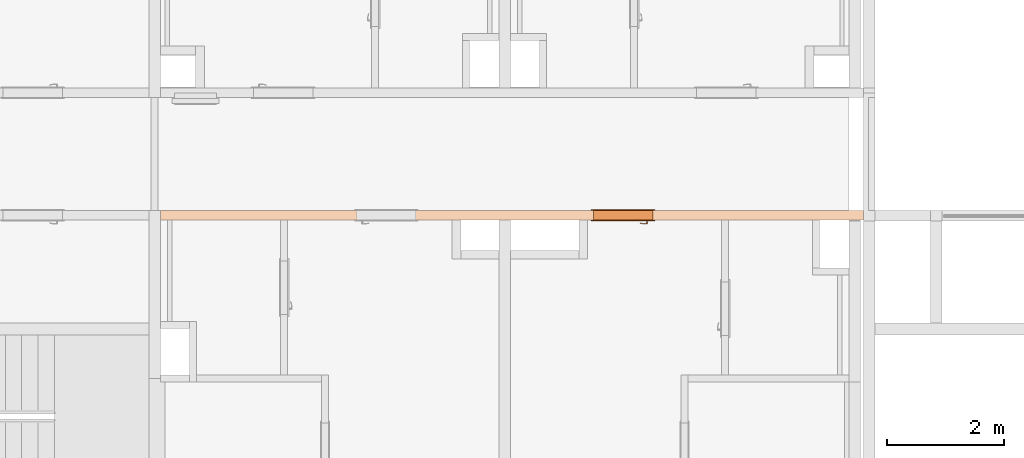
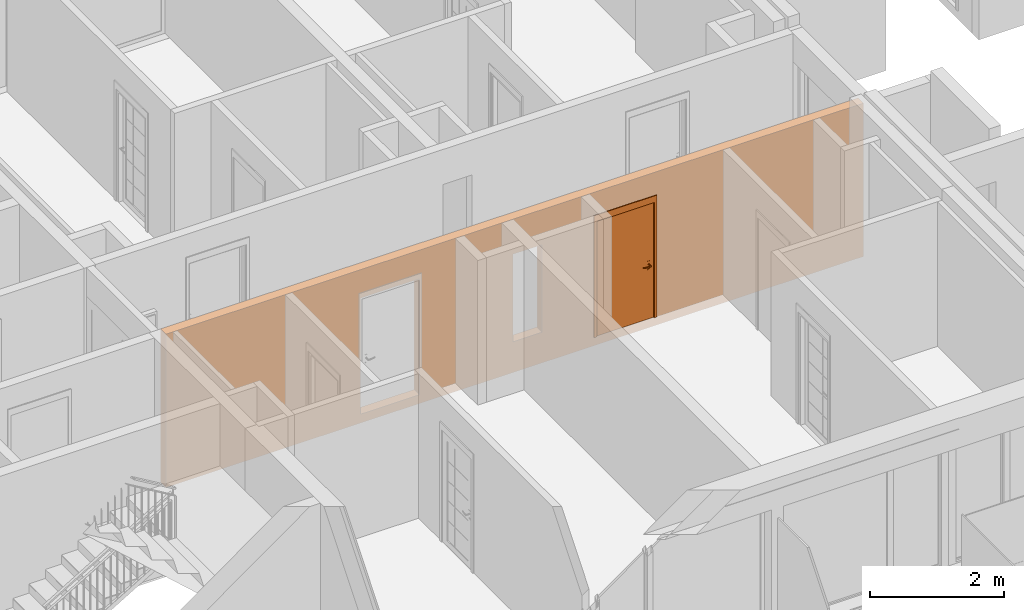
# One storey, part 23 of 66: 1 proxy, 3 openings, plus 1 element that does not belong to this part.
"""IFC2X3 building model written with IfcOpenShell, lengths in millimetres."""

from ifc_helpers import new_model, entity, si_unit, converted_unit, derived_unit, money_unit, direction, frame, origin_with_axes, origin_2d_with_axis, place, context, subcontext, project, spatial, rectangle, extrude, open_shell, faceted_brep, surface_model, source, transform, mapped, material, type_object, element, fill, save


model = new_model("IFC2X3")

# Units and contexts
model_context = context("Model", 3, precision=0.01, world=origin_with_axes(), true_north=direction((0.34421633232, 0.938890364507)))
body_context = subcontext(model_context, "Body", "Model", "MODEL_VIEW")
ifc_project = project(units=[si_unit("LENGTHUNIT", "METRE", prefix="MILLI"), si_unit("AREAUNIT", "SQUARE_METRE"), si_unit("VOLUMEUNIT", "CUBIC_METRE"), converted_unit("PLANEANGLEUNIT", "DEGREE", entity("IfcPlaneAngleMeasure", 0.0174532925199), si_unit("PLANEANGLEUNIT", "RADIAN"), dimensions=[0, 0, 0, 0, 0, 0, 0]), si_unit("SOLIDANGLEUNIT", "STERADIAN"), money_unit("USD"), converted_unit("TIMEUNIT", "Year", entity("IfcTimeMeasure", 31556926.0), si_unit("TIMEUNIT", "SECOND"), dimensions=[0, 0, 1, 0, 0, 0, 0]), si_unit("MASSUNIT", "GRAM", prefix="KILO"), si_unit("THERMODYNAMICTEMPERATUREUNIT", "DEGREE_CELSIUS"), si_unit("LUMINOUSINTENSITYUNIT", "LUMEN"), si_unit("ENERGYUNIT", "JOULE", prefix="MEGA"), derived_unit("THERMALCONDUCTANCEUNIT", [(si_unit("POWERUNIT", "WATT"), 1), (si_unit("LENGTHUNIT", "METRE"), -1), (si_unit("THERMODYNAMICTEMPERATUREUNIT", "KELVIN"), -1)]), derived_unit("SPECIFICHEATCAPACITYUNIT", [(si_unit("ENERGYUNIT", "JOULE"), 1), (si_unit("MASSUNIT", "GRAM", prefix="KILO"), -1), (si_unit("THERMODYNAMICTEMPERATUREUNIT", "KELVIN"), -1)]), derived_unit("MASSDENSITYUNIT", [(si_unit("MASSUNIT", "GRAM", prefix="KILO"), 1), (si_unit("VOLUMEUNIT", "CUBIC_METRE"), -1)])], contexts=[model_context])

# Site, building, storey
site_placement = place(None, origin_with_axes())
site = spatial("IfcSite", under=ifc_project, at=site_placement, Name="USTRONIE MORSKIE", CompositionType="ELEMENT")
building_placement = place(site_placement, origin_with_axes())
building = spatial("IfcBuilding", under=site, at=building_placement, Name="Budynek", CompositionType="ELEMENT")
storey_placement = place(building_placement, frame((0.0, 0.0, 10000.0), z_axis=(0.0, 0.0, 1.0), x_axis=(1.0, 0.0, 0.0)))
storey = spatial("IfcBuildingStorey", under=building, at=storey_placement, Name="PIĘTRO 3", CompositionType="ELEMENT", Elevation=10000.0)

# Proxies, openings
ifc_material = material(Name="Beton konstrukcyjny B25")
building_element_proxy_type_1 = type_object("IfcBuildingElementProxyType", Name="Beton konstrukcyjny B25 160", PredefinedType="NOTDEFINED")
proxy_1_placement = place(storey_placement, frame((408567.920919, 734751.199024, -160.0), z_axis=(0.0, 0.0, 1.0), x_axis=(-1.0, 3.09952861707e-07, 0.0)))
proxy_1 = element("IfcBuildingElementProxy", 1, at=proxy_1_placement, inside=storey, type_object=building_element_proxy_type_1, material=ifc_material, Name="SW-01", context=body_context, shape_type="Brep", body=[
    faceted_brep([(12149.9999752, 80.0, 0.0), (12150.0000248, -80.0, 0.0), (100.000024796, -80.0000000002, 0.0), (99.9999752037, 80.0, 0.0), (12149.9999752, 80.0, 2800.0), (12150.0000248, -80.0, 2800.0), (100.000024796, -80.0000000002, 2800.0), (99.9999752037, 80.0, 2800.0)], [[[0, 1, 2, 3]], [[1, 0, 4, 5]], [[1, 5, 6, 2]], [[7, 3, 2, 6]], [[4, 0, 3, 7]], [[5, 4, 7, 6]]]),
])
opening_1_placement = place(proxy_1_placement, frame((8279.98054114, 0.0, 160.0), z_axis=(0.0, 0.0, 1.0), x_axis=(1.0, 0.0, 0.0)))
element("IfcOpeningElement", 2, at=opening_1_placement, cuts=proxy_1, Name="Dw.1", context=body_context, shape_type="SweptSolid", body=[
    extrude(rectangle(XDim=1020.0, YDim=2120.0, at=origin_2d_with_axis()), frame((0.0, -160.0, 1060.0), z_axis=(0.0, -1.0, 0.0), x_axis=(-1.0, 0.0, 0.0)), (0.0, 0.0, -1.0), 480.0),
    extrude(rectangle(XDim=1094.0, YDim=2227.0, at=origin_2d_with_axis()), frame((0.0, -80.0000000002, 1113.5), z_axis=(0.0, -1.0, 0.0), x_axis=(-1.0, 0.0, 0.0)), (0.0, 0.0, 1.0), 160.0),
    extrude(rectangle(XDim=1094.0, YDim=2227.0, at=origin_2d_with_axis()), frame((0.0, 79.9999999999, 1113.5), z_axis=(0.0, 1.0, 0.0), x_axis=(-1.0, 0.0, 0.0)), (0.0, 0.0, 1.0), 160.0),
])
opening_2_placement = place(proxy_1_placement, frame((4220.01924189, -1.13686837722e-10, 160.0), z_axis=(0.0, 0.0, 1.0), x_axis=(1.0, 0.0, 0.0)))
opening_2 = element("IfcOpeningElement", 3, at=opening_2_placement, cuts=proxy_1, Name="Dw.1", context=body_context, shape_type="SweptSolid", body=[
    extrude(rectangle(XDim=1020.0, YDim=2120.0, at=origin_2d_with_axis()), frame((0.0, -160.0, 1060.0), z_axis=(0.0, 1.0, 0.0), x_axis=(1.0, 0.0, 0.0)), (0.0, 0.0, 1.0), 480.0),
    extrude(rectangle(XDim=1094.0, YDim=2227.0, at=origin_2d_with_axis()), frame((0.0, -80.0, 1113.5), z_axis=(0.0, 1.0, 0.0), x_axis=(1.0, 0.0, 0.0)), (0.0, 0.0, -1.0), 160.0),
    extrude(rectangle(XDim=1094.0, YDim=2227.0, at=origin_2d_with_axis()), frame((0.0, 79.9999999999, 1113.5), z_axis=(0.0, -1.0, 0.0), x_axis=(1.0, 0.0, 0.0)), (0.0, 0.0, -1.0), 160.0),
])
opening_3_placement = place(proxy_1_placement, frame((5900.000031, 0.0, 560.0), z_axis=(0.0, 0.0, 1.0), x_axis=(1.0, 0.0, 0.0)))
element("IfcOpeningElement", 4, at=opening_3_placement, cuts=proxy_1, Name="R.01", context=body_context, shape_type="SweptSolid", body=[
    extrude(rectangle(XDim=500.0, YDim=1600.0, at=origin_2d_with_axis()), frame((0.0, -80.0, 800.0), z_axis=(0.0, 1.0, 0.0), x_axis=(1.0, 0.0, 0.0)), (0.0, 0.0, -1.0), 160.0),
    extrude(rectangle(XDim=500.0, YDim=1600.0, at=origin_2d_with_axis()), frame((0.0, -80.0, 800.0), z_axis=(0.0, -1.0, 0.0), x_axis=(1.0, 0.0, 0.0)), (0.0, 0.0, -1.0), 160.0),
])
building_element_proxy_type_2 = type_object("IfcBuildingElementProxyType", Name="Drzwi 23", PredefinedType="NOTDEFINED")
shared_shape = source(origin_with_axes(), body_context, "Body", "SurfaceModel", [
    faceted_brep([(-510.0, -115.0, 0.0), (-485.0, -115.0, 0.0), (-485.0, -160.0, 0.0), (-510.0, -160.0, 0.0), (-510.0, -115.0, 2120.0), (-485.0, -115.0, 2095.0), (-485.0, -160.0, 2095.0), (-510.0, -160.0, 2120.0)], [[[0, 1, 2, 3]], [[0, 4, 5, 1]], [[1, 5, 6, 2]], [[3, 2, 6, 7]], [[4, 0, 3, 7]], [[5, 4, 7, 6]]]),
    faceted_brep([(510.0, -115.0, 2120.0), (485.0, -115.0, 2095.0), (485.0, -160.0, 2095.0), (510.0, -160.0, 2120.0), (510.0, -115.0, 0.0), (485.0, -115.0, 0.0), (485.0, -160.0, 0.0), (510.0, -160.0, 0.0)], [[[0, 1, 2, 3]], [[0, 4, 5, 1]], [[1, 5, 6, 2]], [[3, 2, 6, 7]], [[4, 0, 3, 7]], [[5, 4, 7, 6]]]),
    faceted_brep([(-485.0, -115.0, 2095.0), (485.0, -115.0, 2095.0), (485.0, -160.0, 2095.0), (-485.0, -160.0, 2095.0), (-510.0, -115.0, 2120.0), (510.0, -115.0, 2120.0), (510.0, -160.0, 2120.0), (-510.0, -160.0, 2120.0)], [[[0, 1, 2, 3]], [[0, 4, 5, 1]], [[1, 5, 6, 2]], [[3, 2, 6, 7]], [[4, 0, 3, 7]], [[5, 4, 7, 6]]]),
    faceted_brep([(-547.0, -179.0, 0.0), (-547.0, -160.0, 0.0), (-497.0, -160.0, 0.0), (-497.0, -179.0, 0.0), (-547.0, -179.0, 2227.0), (-547.0, -160.0, 2227.0), (-497.0, -160.0, 2107.0), (-497.0, -179.0, 2107.0)], [[[0, 1, 2, 3]], [[4, 5, 1, 0]], [[1, 5, 6, 2]], [[3, 2, 6, 7]], [[0, 3, 7, 4]], [[7, 6, 5, 4]]]),
    faceted_brep([(547.0, -179.0, 2227.0), (547.0, -160.0, 2227.0), (497.0, -160.0, 2107.0), (497.0, -179.0, 2107.0), (547.0, -179.0, 0.0), (547.0, -160.0, 0.0), (497.0, -160.0, 0.0), (497.0, -179.0, 0.0)], [[[0, 1, 2, 3]], [[4, 5, 1, 0]], [[1, 5, 6, 2]], [[3, 2, 6, 7]], [[0, 3, 7, 4]], [[7, 6, 5, 4]]]),
    faceted_brep([(-547.0, -179.0, 2227.0), (-547.0, -160.0, 2227.0), (-497.0, -160.0, 2107.0), (-497.0, -179.0, 2107.0), (547.0, -179.0, 2227.0), (547.0, -160.0, 2227.0), (497.0, -160.0, 2107.0), (497.0, -179.0, 2107.0)], [[[0, 1, 2, 3]], [[4, 5, 1, 0]], [[1, 5, 6, 2]], [[3, 2, 6, 7]], [[0, 3, 7, 4]], [[7, 6, 5, 4]]]),
    faceted_brep([(-547.0, 19.0, 0.0), (-497.0, 19.0, 0.0), (-497.0, 0.0, 0.0), (-547.0, 0.0, 0.0), (-547.0, 19.0, 2227.0), (-497.0, 19.0, 2107.0), (-497.0, 0.0, 2107.0), (-547.0, 0.0, 2227.0)], [[[0, 1, 2, 3]], [[0, 4, 5, 1]], [[1, 5, 6, 2]], [[3, 2, 6, 7]], [[4, 0, 3, 7]], [[5, 4, 7, 6]]]),
    faceted_brep([(547.0, 19.0, 2227.0), (497.0, 19.0, 2107.0), (497.0, 0.0, 2107.0), (547.0, 0.0, 2227.0), (547.0, 19.0, 0.0), (497.0, 19.0, 0.0), (497.0, 0.0, 0.0), (547.0, 0.0, 0.0)], [[[0, 1, 2, 3]], [[0, 4, 5, 1]], [[1, 5, 6, 2]], [[3, 2, 6, 7]], [[4, 0, 3, 7]], [[5, 4, 7, 6]]]),
    faceted_brep([(-547.0, 19.0, 2227.0), (-497.0, 19.0, 2107.0), (-497.0, 0.0, 2107.0), (-547.0, 0.0, 2227.0), (547.0, 19.0, 2227.0), (497.0, 19.0, 2107.0), (497.0, 0.0, 2107.0), (547.0, 0.0, 2227.0)], [[[0, 1, 2, 3]], [[0, 4, 5, 1]], [[1, 5, 6, 2]], [[3, 2, 6, 7]], [[4, 0, 3, 7]], [[5, 4, 7, 6]]]),
    faceted_brep([(-450.0, -40.0, 0.0), (-450.0, -40.0, 2050.0), (-450.0, -115.0, 2050.0), (-450.0, -115.0, 0.0), (-462.0, -40.0, 2050.0), (-462.0, -40.0, 0.0), (-462.0, 0.0, 2050.0), (-510.0, 0.0, 2050.0), (-510.0, -115.0, 2050.0), (-510.0, -115.0, 0.0), (-510.0, 0.0, 0.0), (-462.0, 0.0, 0.0)], [[[0, 1, 2, 3]], [[4, 1, 0, 5]], [[4, 6, 7, 8, 2, 1]], [[3, 2, 8, 9]], [[5, 0, 3, 9, 10, 11]], [[6, 4, 5, 11]], [[6, 11, 10, 7]], [[10, 9, 8, 7]]]),
    faceted_brep([(462.0, -40.0, 2050.0), (450.0, -40.0, 2050.0), (450.0, -115.0, 2050.0), (510.0, -115.0, 2050.0), (510.0, 0.0, 2050.0), (462.0, 0.0, 2050.0), (462.0, -40.0, 0.0), (450.0, -40.0, 0.0), (450.0, -115.0, 0.0), (510.0, -115.0, 0.0), (510.0, 0.0, 0.0), (462.0, 0.0, 0.0)], [[[0, 1, 2, 3, 4, 5]], [[1, 0, 6, 7]], [[1, 7, 8, 2]], [[3, 2, 8, 9]], [[4, 3, 9, 10]], [[11, 5, 4, 10]], [[0, 5, 11, 6]], [[6, 11, 10, 9, 8, 7]]]),
    faceted_brep([(-462.0, 0.0, 2062.0), (-462.0, 0.0, 2050.0), (-510.0, 0.0, 2050.0), (-510.0, 0.0, 2120.0), (510.0, 0.0, 2120.0), (510.0, 0.0, 2050.0), (462.0, 0.0, 2050.0), (462.0, 0.0, 2062.0), (-462.0, -40.0, 2062.0), (-462.0, -40.0, 2050.0), (-450.0, -40.0, 2050.0), (-450.0, -115.0, 2050.0), (-510.0, -115.0, 2050.0), (-510.0, -115.0, 2120.0), (510.0, -115.0, 2120.0), (510.0, -115.0, 2050.0), (462.0, -40.0, 2050.0), (450.0, -115.0, 2050.0), (450.0, -40.0, 2050.0), (462.0, -40.0, 2062.0)], [[[0, 1, 2, 3, 4, 5, 6, 7]], [[1, 0, 8, 9]], [[9, 10, 11, 12, 2, 1]], [[2, 12, 13, 3]], [[3, 13, 14, 4]], [[4, 14, 15, 5]], [[16, 6, 5, 15, 17, 18]], [[7, 6, 16, 19]], [[0, 7, 19, 8]], [[16, 18, 10, 9, 8, 19]], [[10, 18, 17, 11]], [[17, 15, 14, 13, 12, 11]]]),
    faceted_brep([(-440.5, -40.0, 1060.0), (-440.5, -43.0, 1060.0), (-383.5, -43.0, 1060.0), (-383.5, -40.0, 1060.0), (-440.5, -40.0, 870.0), (-440.5, -43.0, 870.0), (-383.5, -43.0, 870.0), (-383.5, -40.0, 870.0)], [[[0, 1, 2, 3]], [[4, 5, 1, 0]], [[1, 5, 6, 2]], [[3, 2, 6, 7]], [[0, 3, 7, 4]], [[7, 6, 5, 4]]]),
    faceted_brep([(-412.0, -104.0, 990.0), (-412.0, -111.0, 990.0), (-417.0, -111.0, 991.339745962), (-417.0, -104.0, 991.339745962), (-387.0, -104.0, 990.0), (-387.0, -111.0, 990.0), (-387.0, -111.0, 1010.0), (-412.0, -111.0, 1010.0), (-417.0, -111.0, 1008.66025404), (-420.660254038, -111.0, 1005.0), (-422.0, -111.0, 1000.0), (-420.660254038, -111.0, 995.0), (-420.660254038, -104.0, 995.0), (-422.0, -104.0, 1000.0), (-420.660254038, -104.0, 1005.0), (-417.0, -104.0, 1008.66025404), (-412.0, -104.0, 1010.0), (-387.0, -104.0, 1010.0)], [[[0, 1, 2, 3]], [[4, 5, 1, 0]], [[1, 5, 6, 7, 8, 9, 10, 11, 2]], [[3, 2, 11, 12]], [[0, 3, 12, 13, 14, 15, 16, 17, 4]], [[17, 6, 5, 4]], [[16, 7, 6, 17]], [[15, 8, 7, 16]], [[14, 9, 8, 15]], [[13, 10, 9, 14]], [[12, 11, 10, 13]]]),
    surface_model("IfcShellBasedSurfaceModel", [(-387.0, -104.0, 1010.0), (-373.596090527, -111.0, 1009.60730092), (-373.901717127, -104.0, 1009.60730092), (-387.0, -111.0, 1010.0), (-346.890283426, -108.663544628, 1008.82190275), (-373.901717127, -104.0, 990.392699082), (-387.0, -104.0, 990.0), (-387.0, -111.0, 990.0), (-373.596090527, -111.0, 990.392699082), (-346.890283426, -108.663544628, 991.178097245), (-347.804837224, -101.716818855, 1008.82190275), (-347.804837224, -101.716818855, 991.178097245), (-320.489735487, -104.008415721, 991.963495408), (-320.489735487, -104.008415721, 1008.03650459), (-322.006256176, -97.1678329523, 1008.03650459), (-322.006256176, -97.1678329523, 991.963495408), (-294.59537082, -97.0700416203, 992.748893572), (-294.59537082, -97.0700416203, 1007.25110643), (-296.702316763, -90.3876628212, 1007.25110643), (-296.702316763, -90.3876628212, 992.748893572), (-286.538795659, -94.1376880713, 993.0), (-286.538795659, -94.1376880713, 1007.0), (-288.829442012, -87.5221707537, 1007.0), (-288.829442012, -87.5221707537, 993.0)], [open_shell([[[0, 1, 2]], [[0, 3, 1]], [[2, 1, 4]], [[0, 2, 5, 6]], [[3, 7, 8, 1]], [[1, 8, 9, 4]], [[2, 4, 10]], [[2, 10, 11, 5]], [[5, 7, 6]], [[5, 8, 7]], [[11, 9, 8]], [[4, 9, 12, 13]], [[10, 4, 13]], [[10, 14, 15, 11]], [[11, 8, 5]], [[15, 9, 11]], [[15, 12, 9]], [[13, 12, 16, 17]], [[10, 13, 14]], [[14, 18, 19, 15]], [[19, 12, 15]], [[19, 16, 12]], [[17, 16, 20, 21]], [[14, 13, 17]], [[14, 17, 18]], [[18, 22, 23, 19]], [[23, 16, 19]], [[23, 20, 16]], [[22, 21, 20, 23]], [[18, 17, 21]], [[18, 21, 22]]])]),
    faceted_brep([(-401.607695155, -53.0, 994.0), (-400.741669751, -43.0, 993.5), (-399.0, -43.0, 1000.0), (-400.0, -53.0, 1000.0), (-406.0, -53.0, 989.607695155), (-405.5, -43.0, 988.741669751), (-412.0, -43.0, 987.0), (-418.5, -43.0, 988.741669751), (-423.258330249, -43.0, 993.5), (-425.0, -43.0, 1000.0), (-423.258330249, -43.0, 1006.5), (-418.5, -43.0, 1011.25833025), (-412.0, -43.0, 1013.0), (-405.5, -43.0, 1011.25833025), (-400.741669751, -43.0, 1006.5), (-401.607695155, -53.0, 1006.0), (-406.0, -53.0, 1010.39230485), (-412.0, -53.0, 1012.0), (-418.0, -53.0, 1010.39230485), (-422.392304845, -53.0, 1006.0), (-424.0, -53.0, 1000.0), (-422.392304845, -53.0, 994.0), (-418.0, -53.0, 989.607695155), (-412.0, -53.0, 988.0)], [[[0, 1, 2, 3]], [[4, 5, 1, 0]], [[2, 1, 5, 6, 7, 8, 9, 10, 11, 12, 13, 14]], [[3, 2, 14, 15]], [[3, 15, 16, 17, 18, 19, 20, 21, 22, 23, 4, 0]], [[23, 6, 5, 4]], [[22, 7, 6, 23]], [[21, 8, 7, 22]], [[20, 9, 8, 21]], [[19, 10, 9, 20]], [[18, 11, 10, 19]], [[17, 12, 11, 18]], [[16, 13, 12, 17]], [[15, 14, 13, 16]]]),
    faceted_brep([(-394.679491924, -47.0, 895.0), (-392.947441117, -43.0, 894.0), (-390.0, -43.0, 905.0), (-392.0, -47.0, 905.0), (-402.0, -47.0, 887.679491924), (-401.0, -43.0, 885.947441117), (-412.0, -43.0, 883.0), (-423.0, -43.0, 885.947441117), (-431.052558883, -43.0, 894.0), (-434.0, -43.0, 905.0), (-431.052558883, -43.0, 916.0), (-423.0, -43.0, 924.052558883), (-412.0, -43.0, 927.0), (-401.0, -43.0, 924.052558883), (-392.947441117, -43.0, 916.0), (-394.679491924, -47.0, 915.0), (-402.0, -47.0, 922.320508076), (-412.0, -47.0, 925.0), (-422.0, -47.0, 922.320508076), (-429.320508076, -47.0, 915.0), (-432.0, -47.0, 905.0), (-429.320508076, -47.0, 895.0), (-422.0, -47.0, 887.679491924), (-412.0, -47.0, 885.0)], [[[0, 1, 2, 3]], [[4, 5, 1, 0]], [[2, 1, 5, 6, 7, 8, 9, 10, 11, 12, 13, 14]], [[3, 2, 14, 15]], [[3, 15, 16, 17, 18, 19, 20, 21, 22, 23, 4, 0]], [[23, 6, 5, 4]], [[22, 7, 6, 23]], [[21, 8, 7, 22]], [[20, 9, 8, 21]], [[19, 10, 9, 20]], [[18, 11, 10, 19]], [[17, 12, 11, 18]], [[16, 13, 12, 17]], [[15, 14, 13, 16]]]),
    faceted_brep([(-407.050252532, -49.0, 909.050252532), (-406.343145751, -47.0, 908.343145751), (-404.0, -47.0, 914.0), (-405.0, -49.0, 914.0), (-412.0, -49.0, 907.0), (-412.0, -47.0, 906.0), (-417.656854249, -47.0, 908.343145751), (-420.0, -47.0, 914.0), (-417.656854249, -47.0, 919.656854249), (-412.0, -47.0, 922.0), (-406.343145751, -47.0, 919.656854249), (-407.050252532, -49.0, 918.949747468), (-412.0, -49.0, 921.0), (-416.949747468, -49.0, 918.949747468), (-419.0, -49.0, 914.0), (-416.949747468, -49.0, 909.050252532)], [[[0, 1, 2, 3]], [[4, 5, 1, 0]], [[2, 1, 5, 6, 7, 8, 9, 10]], [[3, 2, 10, 11]], [[3, 11, 12, 13, 14, 15, 4, 0]], [[15, 6, 5, 4]], [[14, 7, 6, 15]], [[13, 8, 7, 14]], [[12, 9, 8, 13]], [[11, 10, 9, 12]]]),
    faceted_brep([(-412.0, -53.0, 1010.0), (-412.0, -104.0, 1010.0), (-407.0, -104.0, 1008.66025404), (-407.0, -53.0, 1008.66025404), (-417.0, -53.0, 1008.66025404), (-417.0, -104.0, 1008.66025404), (-420.660254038, -104.0, 1005.0), (-422.0, -104.0, 1000.0), (-420.660254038, -104.0, 995.0), (-417.0, -104.0, 991.339745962), (-412.0, -104.0, 990.0), (-407.0, -104.0, 991.339745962), (-403.339745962, -104.0, 995.0), (-402.0, -104.0, 1000.0), (-403.339745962, -104.0, 1005.0), (-403.339745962, -53.0, 1005.0), (-402.0, -53.0, 1000.0), (-403.339745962, -53.0, 995.0), (-407.0, -53.0, 991.339745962), (-412.0, -53.0, 990.0), (-417.0, -53.0, 991.339745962), (-420.660254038, -53.0, 995.0), (-422.0, -53.0, 1000.0), (-420.660254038, -53.0, 1005.0)], [[[0, 1, 2, 3]], [[4, 5, 1, 0]], [[1, 5, 6, 7, 8, 9, 10, 11, 12, 13, 14, 2]], [[3, 2, 14, 15]], [[0, 3, 15, 16, 17, 18, 19, 20, 21, 22, 23, 4]], [[23, 6, 5, 4]], [[22, 7, 6, 23]], [[21, 8, 7, 22]], [[20, 9, 8, 21]], [[19, 10, 9, 20]], [[18, 11, 10, 19]], [[17, 12, 11, 18]], [[16, 13, 12, 17]], [[15, 14, 13, 16]]]),
    faceted_brep([(-440.5, 0.0, 1060.0), (-383.5, 0.0, 1060.0), (-383.5, 3.0, 1060.0), (-440.5, 3.0, 1060.0), (-440.5, 0.0, 870.0), (-383.5, 0.0, 870.0), (-383.5, 3.0, 870.0), (-440.5, 3.0, 870.0)], [[[0, 1, 2, 3]], [[0, 4, 5, 1]], [[1, 5, 6, 2]], [[3, 2, 6, 7]], [[4, 0, 3, 7]], [[5, 4, 7, 6]]]),
    faceted_brep([(-412.0, 64.0, 990.0), (-417.0, 64.0, 991.339745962), (-417.0, 71.0, 991.339745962), (-412.0, 71.0, 990.0), (-387.0, 64.0, 990.0), (-387.0, 64.0, 1010.0), (-412.0, 64.0, 1010.0), (-417.0, 64.0, 1008.66025404), (-420.660254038, 64.0, 1005.0), (-422.0, 64.0, 1000.0), (-420.660254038, 64.0, 995.0), (-420.660254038, 71.0, 995.0), (-422.0, 71.0, 1000.0), (-420.660254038, 71.0, 1005.0), (-417.0, 71.0, 1008.66025404), (-412.0, 71.0, 1010.0), (-387.0, 71.0, 1010.0), (-387.0, 71.0, 990.0)], [[[0, 1, 2, 3]], [[0, 4, 5, 6, 7, 8, 9, 10, 1]], [[1, 10, 11, 2]], [[3, 2, 11, 12, 13, 14, 15, 16, 17]], [[4, 0, 3, 17]], [[5, 4, 17, 16]], [[6, 5, 16, 15]], [[7, 6, 15, 14]], [[8, 7, 14, 13]], [[9, 8, 13, 12]], [[10, 9, 12, 11]]]),
    surface_model("IfcShellBasedSurfaceModel", [(-387.0, 64.0, 1010.0), (-373.901717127, 64.0, 1009.60730092), (-373.596090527, 71.0, 1009.60730092), (-387.0, 64.0, 990.0), (-373.901717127, 64.0, 990.392699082), (-346.890283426, 68.6635446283, 1008.82190275), (-387.0, 71.0, 1010.0), (-387.0, 71.0, 990.0), (-347.804837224, 61.716818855, 991.178097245), (-347.804837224, 61.716818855, 1008.82190275), (-346.890283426, 68.6635446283, 991.178097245), (-373.596090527, 71.0, 990.392699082), (-322.006256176, 57.1678329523, 991.963495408), (-322.006256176, 57.1678329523, 1008.03650459), (-320.489735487, 64.0084157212, 1008.03650459), (-320.489735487, 64.0084157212, 991.963495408), (-296.702316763, 50.3876628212, 992.748893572), (-296.702316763, 50.3876628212, 1007.25110643), (-294.59537082, 57.0700416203, 1007.25110643), (-294.59537082, 57.0700416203, 992.748893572), (-288.829442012, 47.5221707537, 993.0), (-288.829442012, 47.5221707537, 1007.0), (-286.538795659, 54.1376880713, 1007.0), (-286.538795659, 54.1376880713, 993.0)], [open_shell([[[0, 1, 2]], [[0, 3, 4, 1]], [[1, 5, 2]], [[0, 2, 6]], [[4, 3, 7]], [[1, 4, 8, 9]], [[1, 9, 5]], [[2, 5, 10, 11]], [[6, 2, 11, 7]], [[4, 7, 11]], [[8, 4, 11]], [[9, 8, 12, 13]], [[9, 14, 5]], [[5, 14, 15, 10]], [[8, 11, 10]], [[12, 8, 10]], [[13, 12, 16, 17]], [[9, 13, 14]], [[14, 18, 19, 15]], [[12, 10, 15]], [[16, 12, 15]], [[17, 16, 20, 21]], [[13, 17, 18]], [[13, 18, 14]], [[18, 22, 23, 19]], [[16, 15, 19]], [[20, 16, 19]], [[21, 20, 23, 22]], [[17, 21, 22]], [[17, 22, 18]], [[20, 19, 23]]])]),
    faceted_brep([(-401.607695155, 13.0, 994.0), (-400.0, 13.0, 1000.0), (-399.0, 3.0, 1000.0), (-400.741669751, 3.0, 993.5), (-406.0, 13.0, 989.607695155), (-412.0, 13.0, 988.0), (-418.0, 13.0, 989.607695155), (-422.392304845, 13.0, 994.0), (-424.0, 13.0, 1000.0), (-422.392304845, 13.0, 1006.0), (-418.0, 13.0, 1010.39230485), (-412.0, 13.0, 1012.0), (-406.0, 13.0, 1010.39230485), (-401.607695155, 13.0, 1006.0), (-400.741669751, 3.0, 1006.5), (-405.5, 3.0, 1011.25833025), (-412.0, 3.0, 1013.0), (-418.5, 3.0, 1011.25833025), (-423.258330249, 3.0, 1006.5), (-425.0, 3.0, 1000.0), (-423.258330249, 3.0, 993.5), (-418.5, 3.0, 988.741669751), (-412.0, 3.0, 987.0), (-405.5, 3.0, 988.741669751)], [[[0, 1, 2, 3]], [[1, 0, 4, 5, 6, 7, 8, 9, 10, 11, 12, 13]], [[1, 13, 14, 2]], [[2, 14, 15, 16, 17, 18, 19, 20, 21, 22, 23, 3]], [[4, 0, 3, 23]], [[5, 4, 23, 22]], [[6, 5, 22, 21]], [[7, 6, 21, 20]], [[8, 7, 20, 19]], [[9, 8, 19, 18]], [[10, 9, 18, 17]], [[11, 10, 17, 16]], [[12, 11, 16, 15]], [[13, 12, 15, 14]]]),
    faceted_brep([(-394.679491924, 7.0, 895.0), (-392.0, 7.0, 905.0), (-390.0, 3.0, 905.0), (-392.947441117, 3.0, 894.0), (-402.0, 7.0, 887.679491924), (-412.0, 7.0, 885.0), (-422.0, 7.0, 887.679491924), (-429.320508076, 7.0, 895.0), (-432.0, 7.0, 905.0), (-429.320508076, 7.0, 915.0), (-422.0, 7.0, 922.320508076), (-412.0, 7.0, 925.0), (-402.0, 7.0, 922.320508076), (-394.679491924, 7.0, 915.0), (-392.947441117, 3.0, 916.0), (-401.0, 3.0, 924.052558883), (-412.0, 3.0, 927.0), (-423.0, 3.0, 924.052558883), (-431.052558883, 3.0, 916.0), (-434.0, 3.0, 905.0), (-431.052558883, 3.0, 894.0), (-423.0, 3.0, 885.947441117), (-412.0, 3.0, 883.0), (-401.0, 3.0, 885.947441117)], [[[0, 1, 2, 3]], [[1, 0, 4, 5, 6, 7, 8, 9, 10, 11, 12, 13]], [[1, 13, 14, 2]], [[2, 14, 15, 16, 17, 18, 19, 20, 21, 22, 23, 3]], [[4, 0, 3, 23]], [[5, 4, 23, 22]], [[6, 5, 22, 21]], [[7, 6, 21, 20]], [[8, 7, 20, 19]], [[9, 8, 19, 18]], [[10, 9, 18, 17]], [[11, 10, 17, 16]], [[12, 11, 16, 15]], [[13, 12, 15, 14]]]),
    faceted_brep([(-407.050252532, 9.0, 909.050252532), (-405.0, 9.0, 914.0), (-404.0, 7.0, 914.0), (-406.343145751, 7.0, 908.343145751), (-412.0, 9.0, 907.0), (-416.949747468, 9.0, 909.050252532), (-419.0, 9.0, 914.0), (-416.949747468, 9.0, 918.949747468), (-412.0, 9.0, 921.0), (-407.050252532, 9.0, 918.949747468), (-406.343145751, 7.0, 919.656854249), (-412.0, 7.0, 922.0), (-417.656854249, 7.0, 919.656854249), (-420.0, 7.0, 914.0), (-417.656854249, 7.0, 908.343145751), (-412.0, 7.0, 906.0)], [[[0, 1, 2, 3]], [[1, 0, 4, 5, 6, 7, 8, 9]], [[1, 9, 10, 2]], [[2, 10, 11, 12, 13, 14, 15, 3]], [[4, 0, 3, 15]], [[5, 4, 15, 14]], [[6, 5, 14, 13]], [[7, 6, 13, 12]], [[8, 7, 12, 11]], [[9, 8, 11, 10]]]),
    faceted_brep([(-412.0, 13.0, 1010.0), (-407.0, 13.0, 1008.66025404), (-407.0, 64.0, 1008.66025404), (-412.0, 64.0, 1010.0), (-417.0, 13.0, 1008.66025404), (-420.660254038, 13.0, 1005.0), (-422.0, 13.0, 1000.0), (-420.660254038, 13.0, 995.0), (-417.0, 13.0, 991.339745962), (-412.0, 13.0, 990.0), (-407.0, 13.0, 991.339745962), (-403.339745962, 13.0, 995.0), (-402.0, 13.0, 1000.0), (-403.339745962, 13.0, 1005.0), (-403.339745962, 64.0, 1005.0), (-402.0, 64.0, 1000.0), (-403.339745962, 64.0, 995.0), (-407.0, 64.0, 991.339745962), (-412.0, 64.0, 990.0), (-417.0, 64.0, 991.339745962), (-420.660254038, 64.0, 995.0), (-422.0, 64.0, 1000.0), (-420.660254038, 64.0, 1005.0), (-417.0, 64.0, 1008.66025404)], [[[0, 1, 2, 3]], [[0, 4, 5, 6, 7, 8, 9, 10, 11, 12, 13, 1]], [[1, 13, 14, 2]], [[3, 2, 14, 15, 16, 17, 18, 19, 20, 21, 22, 23]], [[4, 0, 3, 23]], [[5, 4, 23, 22]], [[6, 5, 22, 21]], [[7, 6, 21, 20]], [[8, 7, 20, 19]], [[9, 8, 19, 18]], [[10, 9, 18, 17]], [[11, 10, 17, 16]], [[12, 11, 16, 15]], [[13, 12, 15, 14]]]),
    faceted_brep([(462.0, 0.0, 0.0), (462.0, -40.0, 0.0), (-462.0, -40.0, 0.0), (-462.0, 0.0, 0.0), (462.0, 0.0, 2062.0), (462.0, -40.0, 2062.0), (-462.0, -40.0, 2062.0), (-462.0, 0.0, 2062.0)], [[[0, 1, 2, 3]], [[4, 5, 1, 0]], [[1, 5, 6, 2]], [[3, 2, 6, 7]], [[0, 3, 7, 4]], [[7, 6, 5, 4]]]),
])
proxy_2_placement = place(opening_2_placement, frame((-450.0, 1.13686837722e-10, 0.0), z_axis=(0.0, 0.0, 1.0), x_axis=(1.0, 0.0, 0.0)))
proxy_2 = element("IfcBuildingElementProxy", 5, at=proxy_2_placement, inside=storey, type_object=building_element_proxy_type_2, Name="Dw.1", context=body_context, shape_type="MappedRepresentation", body=[
    mapped(shared_shape, transform((450.0, 79.9999999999, 0.0))),
])
fill(opening_2, proxy_2)

save(model, "model.ifc")
